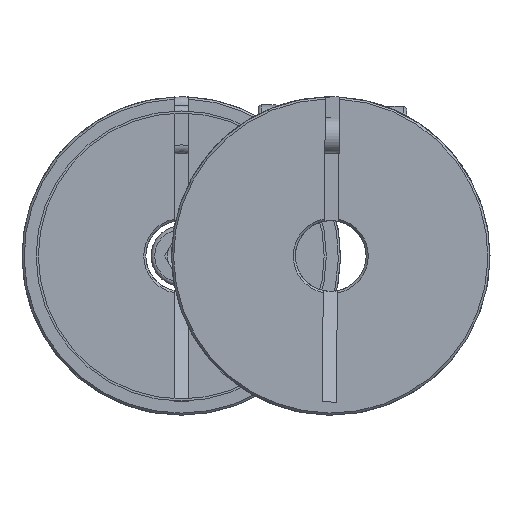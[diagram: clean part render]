
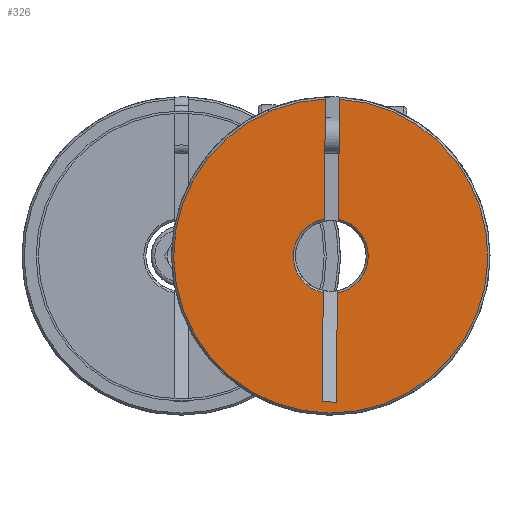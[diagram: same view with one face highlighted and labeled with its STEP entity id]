
A CAD part, left-side view. The second image highlights one B-rep face of the part: STEP entity #326.
In plain terms, the highlighted planar face has unit normal (-1, 0, 0).
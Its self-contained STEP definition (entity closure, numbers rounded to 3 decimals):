
#326 = ADVANCED_FACE( 'NONE', ( #560 ), #561, .F. );
#560 = FACE_OUTER_BOUND( '', #1301, .T. );
#561 = PLANE( '', #1302 );
#1301 = EDGE_LOOP( '', ( #1594, #1595, #1596, #1597, #1598, #1599, #1600, #1601 ) );
#1302 = AXIS2_PLACEMENT_3D( '', #1602, #1603, #1604 );
#1594 = ORIENTED_EDGE( '', *, *, #2119, .T. );
#1595 = ORIENTED_EDGE( '', *, *, #2120, .T. );
#1596 = ORIENTED_EDGE( '', *, *, #2121, .T. );
#1597 = ORIENTED_EDGE( '', *, *, #2122, .T. );
#1598 = ORIENTED_EDGE( '', *, *, #2123, .F. );
#1599 = ORIENTED_EDGE( '', *, *, #2124, .T. );
#1600 = ORIENTED_EDGE( '', *, *, #2125, .F. );
#1601 = ORIENTED_EDGE( '', *, *, #2126, .F. );
#1602 = CARTESIAN_POINT( '', ( 0., 5., 0. ) );
#1603 = DIRECTION( '', ( 1., 0., 0. ) );
#1604 = DIRECTION( '', ( 0., 1., 0. ) );
#2119 = EDGE_CURVE( 'NONE', #2287, #2288, #2289, .T. );
#2120 = EDGE_CURVE( 'NONE', #2288, #2290, #2291, .T. );
#2121 = EDGE_CURVE( 'NONE', #2290, #2292, #2293, .T. );
#2122 = EDGE_CURVE( 'NONE', #2292, #2294, #2295, .F. );
#2123 = EDGE_CURVE( 'NONE', #2296, #2294, #2297, .F. );
#2124 = EDGE_CURVE( 'NONE', #2296, #2298, #2299, .T. );
#2125 = EDGE_CURVE( 'NONE', #2300, #2298, #2301, .F. );
#2126 = EDGE_CURVE( 'NONE', #2287, #2300, #2302, .T. );
#2287 = VERTEX_POINT( 'NONE', #2502 );
#2288 = VERTEX_POINT( 'NONE', #2503 );
#2289 = LINE( '', #2504, #2505 );
#2290 = VERTEX_POINT( 'NONE', #2506 );
#2291 = CIRCLE( '', #2507, 5.3 );
#2292 = VERTEX_POINT( 'NONE', #2508 );
#2293 = LINE( '', #2509, #2510 );
#2294 = VERTEX_POINT( 'NONE', #2511 );
#2295 = CIRCLE( '', #2512, 22.2 );
#2296 = VERTEX_POINT( 'NONE', #2513 );
#2297 = LINE( '', #2514, #2515 );
#2298 = VERTEX_POINT( 'NONE', #2516 );
#2299 = CIRCLE( '', #2517, 5.3 );
#2300 = VERTEX_POINT( 'NONE', #2518 );
#2301 = LINE( '', #2519, #2520 );
#2302 = LINE( '', #2521, #2522 );
#2502 = CARTESIAN_POINT( '', ( 0., 1., -20.63 ) );
#2503 = CARTESIAN_POINT( '', ( 0., 1., -5.205 ) );
#2504 = CARTESIAN_POINT( '', ( 0., 1., 0. ) );
#2505 = VECTOR( '', #2851, 1000. );
#2506 = CARTESIAN_POINT( '', ( 0., 1., 5.205 ) );
#2507 = AXIS2_PLACEMENT_3D( '', #2852, #2853, #2854 );
#2508 = CARTESIAN_POINT( '', ( 0., 1., 22.177 ) );
#2509 = CARTESIAN_POINT( '', ( 0., 1., 0. ) );
#2510 = VECTOR( '', #2855, 1000. );
#2511 = CARTESIAN_POINT( '', ( 0., -1., 22.177 ) );
#2512 = AXIS2_PLACEMENT_3D( '', #2856, #2857, #2858 );
#2513 = CARTESIAN_POINT( '', ( 0., -1., 5.205 ) );
#2514 = CARTESIAN_POINT( '', ( 0., -1., 13. ) );
#2515 = VECTOR( '', #2859, 1000. );
#2516 = CARTESIAN_POINT( '', ( 0., -1., -5.205 ) );
#2517 = AXIS2_PLACEMENT_3D( '', #2860, #2861, #2862 );
#2518 = CARTESIAN_POINT( '', ( 0., -1., -20.63 ) );
#2519 = CARTESIAN_POINT( '', ( 0., -1., 13. ) );
#2520 = VECTOR( '', #2863, 1000. );
#2521 = CARTESIAN_POINT( '', ( 0., 1., -20.63 ) );
#2522 = VECTOR( '', #2864, 1000. );
#2851 = DIRECTION( '', ( 0., 0., 1. ) );
#2852 = CARTESIAN_POINT( '', ( 0., 0., 0. ) );
#2853 = DIRECTION( '', ( 1., 0., 0. ) );
#2854 = DIRECTION( '', ( 0., 0., -1. ) );
#2855 = DIRECTION( '', ( 0., 0., 1. ) );
#2856 = CARTESIAN_POINT( '', ( 0., 0., 0. ) );
#2857 = DIRECTION( '', ( 1., 0., 0. ) );
#2858 = DIRECTION( '', ( 0., 0., -1. ) );
#2859 = DIRECTION( '', ( 0., 0., -1. ) );
#2860 = CARTESIAN_POINT( '', ( 0., 0., 0. ) );
#2861 = DIRECTION( '', ( 1., 0., 0. ) );
#2862 = DIRECTION( '', ( 0., 0., -1. ) );
#2863 = DIRECTION( '', ( 0., 0., -1. ) );
#2864 = DIRECTION( '', ( 0., -1., 0. ) );
